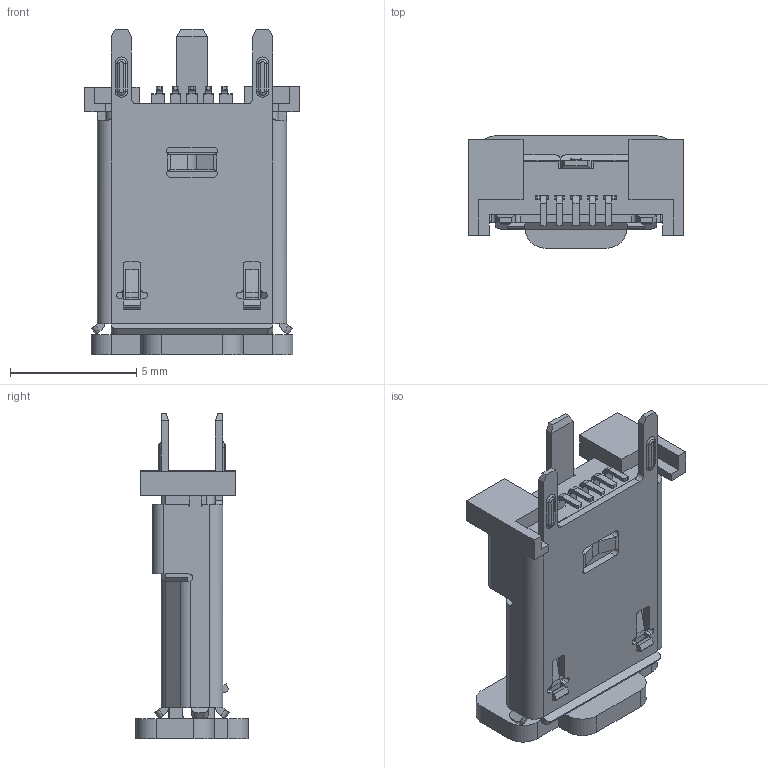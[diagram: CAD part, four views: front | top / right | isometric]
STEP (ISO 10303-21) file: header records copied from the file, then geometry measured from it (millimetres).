
FILE_DESCRIPTION((''),'2;1');
FILE_NAME('1051330031','2019-09-20T',('gga'),(''),'PRO/ENGINEER BY PARAMETRIC TECHNOLOGY CORPORATION, 2016010','PRO/ENGINEER BY PARAMETRIC TECHNOLOGY CORPORATION, 2016010','');
FILE_SCHEMA(('CONFIG_CONTROL_DESIGN'));
Length unit declared in the file: millimetre
Products named in the file (1): 1051330031
Bounding box: 8.5 x 4.45 x 12.9 mm (x, y, z)
Volume: 161.1 mm3; surface area: 652.1 mm2
Topology: 1 solids, 1 shells, 799 faces, 2345 edges, 1558 vertices
Faces by surface type: plane 573, cylinder 208, torus 8, sphere 4, bspline 4, cone 2
Entity records: 26617 total; most frequent: CARTESIAN_POINT 4991, ORIENTED_EDGE 4594, DIRECTION 4385, EDGE_CURVE 2297, VECTOR 1793, LINE 1793, VERTEX_POINT 1514, AXIS2_PLACEMENT_3D 1296
